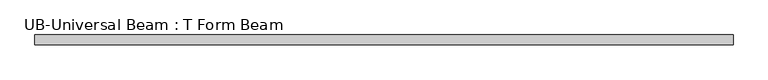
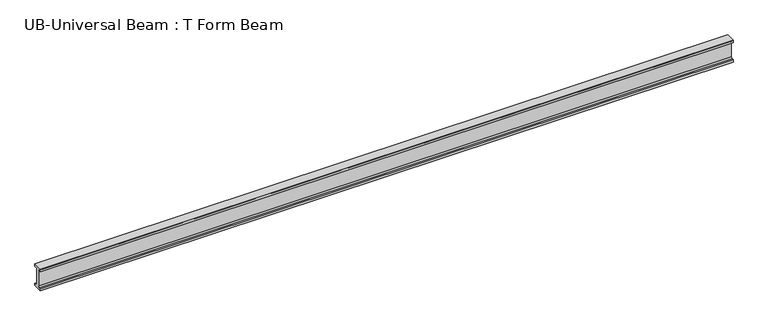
"""IFC4 building model written with IfcOpenShell, lengths in millimetres: beam geometry, UB-Universal Beam : T Form Beam."""

from ifc_helpers import new_model, si_unit, point, frame, frame_2d, origin, place, context, project, spatial, polyline, circle_curve, trimmed, segment, composite_curve, outline, extrude, source, transform, mapped, element, save


def ub_universal_beam_t_form_beam_e655866b(model_context):
    return source(origin(), model_context, "Body", "SweptSolid", [
        extrude(outline(composite_curve([segment(polyline([(101.6, -190.5), (101.6, -241.3), (-101.6, -241.3), (-101.6, -190.5), (-63.5, -190.5)]), True, "CONTINUOUS"), segment(trimmed(circle_curve(frame_2d((-63.5, -165.1)), 25.4), [point((-63.5, -190.5))], [point((-38.1, -165.1))], True, "CARTESIAN"), True, "CONTINUOUS"), segment(polyline([(-38.1, -165.1), (-38.1, 165.1)]), True, "CONTINUOUS"), segment(trimmed(circle_curve(frame_2d((-63.5, 165.1)), 25.4), [point((-38.1, 165.1))], [point((-63.5, 190.5))], True, "CARTESIAN"), True, "CONTINUOUS"), segment(polyline([(-63.5, 190.5), (-101.6, 190.5), (-101.6, 241.3), (101.6, 241.3), (101.6, 190.5), (63.5, 190.5)]), True, "CONTINUOUS"), segment(trimmed(circle_curve(frame_2d((63.5, 165.1)), 25.4), [point((63.5, 190.5))], [point((38.1, 165.1))], True, "CARTESIAN"), True, "CONTINUOUS"), segment(polyline([(38.1, 165.1), (38.1, -165.1)]), True, "CONTINUOUS"), segment(trimmed(circle_curve(frame_2d((63.5, -165.1)), 25.4), [point((38.1, -165.1))], [point((63.5, -190.5))], True, "CARTESIAN"), True, "CONTINUOUS"), segment(polyline([(63.5, -190.5), (101.6, -190.5)]), True, "CONTINUOUS")], self_intersect=False)), frame((-7165.975, 0.0, 0.0), z_axis=(1.0, 0.0, 0.0), x_axis=(0.0, 1.0, 0.0)), (0.0, 0.0, 1.0), 14624.0499994),
    ])


if __name__ == "__main__":
    model = new_model("IFC4")
    model_context = context("Model", 3, world=origin())
    ifc_project = project(units=[si_unit("LENGTHUNIT", "METRE", prefix="MILLI")], contexts=[model_context])
    site = spatial("IfcSite", under=ifc_project)
    building = spatial("IfcBuilding", under=site)
    placement = place(None, origin())
    ub_universal_beam_t_form_beam_shape = ub_universal_beam_t_form_beam_e655866b(model_context)
    element("IfcBeam", 1, ObjectType="UB-Universal Beam : T Form Beam", at=placement, inside=building, context=model_context, shape_type="MappedRepresentation", body=[
        mapped(ub_universal_beam_t_form_beam_shape, transform((0.0, 0.0, 0.0), x_axis=(1.0, 0.0, 0.0), y_axis=(0.0, 1.0, 0.0), z_axis=(0.0, 0.0, 1.0))),
    ])
    save(model, "model.ifc")
